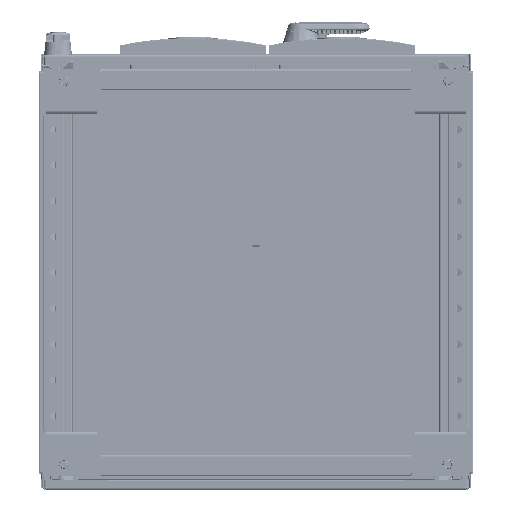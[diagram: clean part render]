
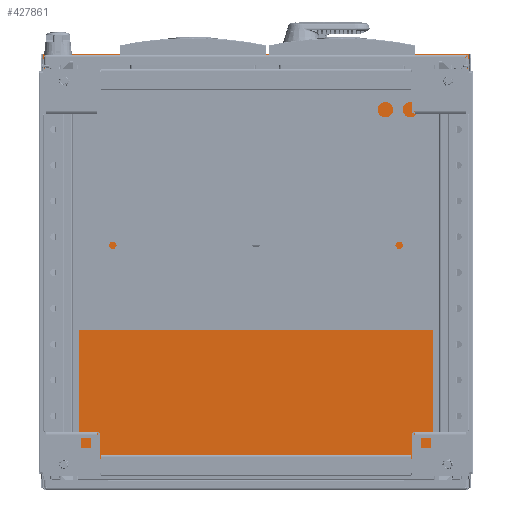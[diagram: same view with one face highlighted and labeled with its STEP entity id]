
A CAD part, front view. The second image highlights one B-rep face of the part: STEP entity #427861.
In plain terms, the highlighted planar face has unit normal (0, -1, 0).
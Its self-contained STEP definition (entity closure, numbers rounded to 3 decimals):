
#10781=FACE_BOUND('',#53837,.T.);
#10782=FACE_BOUND('',#53838,.T.);
#10783=FACE_BOUND('',#53839,.T.);
#10784=FACE_BOUND('',#53840,.T.);
#10785=FACE_BOUND('',#53841,.T.);
#10786=FACE_BOUND('',#53842,.T.);
#18499=PLANE('',#451029);
#31178=FACE_OUTER_BOUND('',#53836,.T.);
#53836=EDGE_LOOP('',(#299074,#299075,#299076,#299077,#299078,#299079));
#53837=EDGE_LOOP('',(#299080));
#53838=EDGE_LOOP('',(#299081));
#53839=EDGE_LOOP('',(#299082,#299083));
#53840=EDGE_LOOP('',(#299084,#299085));
#53841=EDGE_LOOP('',(#299086,#299087));
#53842=EDGE_LOOP('',(#299088,#299089));
#84502=LINE('',#635007,#124792);
#84514=LINE('',#635036,#124804);
#84515=LINE('',#635038,#124805);
#84516=LINE('',#635040,#124806);
#84517=LINE('',#635042,#124807);
#84518=LINE('',#635043,#124808);
#124792=VECTOR('',#497651,1000.);
#124804=VECTOR('',#497675,1000.);
#124805=VECTOR('',#497676,1000.);
#124806=VECTOR('',#497677,1000.);
#124807=VECTOR('',#497678,1000.);
#124808=VECTOR('',#497679,1000.);
#161608=CIRCLE('',#449383,2.7);
#161636=CIRCLE('',#449476,2.7);
#162001=CIRCLE('',#450996,8.);
#162002=CIRCLE('',#450997,8.);
#162003=CIRCLE('',#450999,8.);
#162004=CIRCLE('',#451000,8.);
#162005=CIRCLE('',#451002,8.);
#162006=CIRCLE('',#451003,8.);
#162007=CIRCLE('',#451005,8.);
#162008=CIRCLE('',#451006,8.);
#181194=VERTEX_POINT('',#627480);
#181295=VERTEX_POINT('',#627983);
#183503=VERTEX_POINT('',#634865);
#183504=VERTEX_POINT('',#634866);
#183505=VERTEX_POINT('',#634871);
#183506=VERTEX_POINT('',#634872);
#183507=VERTEX_POINT('',#634877);
#183508=VERTEX_POINT('',#634878);
#183509=VERTEX_POINT('',#634883);
#183510=VERTEX_POINT('',#634884);
#183557=VERTEX_POINT('',#635005);
#183558=VERTEX_POINT('',#635006);
#183569=VERTEX_POINT('',#635035);
#183570=VERTEX_POINT('',#635037);
#183571=VERTEX_POINT('',#635039);
#183572=VERTEX_POINT('',#635041);
#225205=EDGE_CURVE('',#181194,#181194,#161608,.T.);
#225361=EDGE_CURVE('',#181295,#181295,#161636,.T.);
#228699=EDGE_CURVE('',#183503,#183504,#162001,.T.);
#228701=EDGE_CURVE('',#183504,#183503,#162002,.T.);
#228702=EDGE_CURVE('',#183505,#183506,#162003,.T.);
#228704=EDGE_CURVE('',#183506,#183505,#162004,.T.);
#228705=EDGE_CURVE('',#183507,#183508,#162005,.T.);
#228707=EDGE_CURVE('',#183508,#183507,#162006,.T.);
#228708=EDGE_CURVE('',#183509,#183510,#162007,.T.);
#228710=EDGE_CURVE('',#183510,#183509,#162008,.T.);
#228767=EDGE_CURVE('',#183557,#183558,#84502,.T.);
#228781=EDGE_CURVE('',#183569,#183557,#84514,.T.);
#228782=EDGE_CURVE('',#183570,#183569,#84515,.T.);
#228783=EDGE_CURVE('',#183571,#183570,#84516,.T.);
#228784=EDGE_CURVE('',#183571,#183572,#84517,.T.);
#228785=EDGE_CURVE('',#183572,#183558,#84518,.T.);
#299074=ORIENTED_EDGE('',*,*,#228781,.F.);
#299075=ORIENTED_EDGE('',*,*,#228782,.F.);
#299076=ORIENTED_EDGE('',*,*,#228783,.F.);
#299077=ORIENTED_EDGE('',*,*,#228784,.T.);
#299078=ORIENTED_EDGE('',*,*,#228785,.T.);
#299079=ORIENTED_EDGE('',*,*,#228767,.F.);
#299080=ORIENTED_EDGE('',*,*,#225205,.T.);
#299081=ORIENTED_EDGE('',*,*,#225361,.T.);
#299082=ORIENTED_EDGE('',*,*,#228699,.F.);
#299083=ORIENTED_EDGE('',*,*,#228701,.F.);
#299084=ORIENTED_EDGE('',*,*,#228702,.F.);
#299085=ORIENTED_EDGE('',*,*,#228704,.F.);
#299086=ORIENTED_EDGE('',*,*,#228705,.F.);
#299087=ORIENTED_EDGE('',*,*,#228707,.F.);
#299088=ORIENTED_EDGE('',*,*,#228708,.F.);
#299089=ORIENTED_EDGE('',*,*,#228710,.F.);
#427861=ADVANCED_FACE('',(#31178,#10781,#10782,#10783,#10784,#10785,#10786),
#18499,.F.);
#449383=AXIS2_PLACEMENT_3D('',#627481,#491306,#491307);
#449476=AXIS2_PLACEMENT_3D('',#627984,#491572,#491573);
#450996=AXIS2_PLACEMENT_3D('',#634867,#497537,#497538);
#450997=AXIS2_PLACEMENT_3D('',#634869,#497540,#497541);
#450999=AXIS2_PLACEMENT_3D('',#634873,#497544,#497545);
#451000=AXIS2_PLACEMENT_3D('',#634875,#497547,#497548);
#451002=AXIS2_PLACEMENT_3D('',#634879,#497551,#497552);
#451003=AXIS2_PLACEMENT_3D('',#634881,#497554,#497555);
#451005=AXIS2_PLACEMENT_3D('',#634885,#497558,#497559);
#451006=AXIS2_PLACEMENT_3D('',#634887,#497561,#497562);
#451029=AXIS2_PLACEMENT_3D('',#635034,#497673,#497674);
#491306=DIRECTION('center_axis',(0.,1.,0.));
#491307=DIRECTION('ref_axis',(0.,0.,
1.));
#491572=DIRECTION('center_axis',(0.,1.,0.));
#491573=DIRECTION('ref_axis',(0.965,0.,-0.264));
#497537=DIRECTION('center_axis',(0.,-1.,0.));
#497538=DIRECTION('ref_axis',(0.,0.,1.));
#497540=DIRECTION('center_axis',(0.,-1.,0.));
#497541=DIRECTION('ref_axis',(0.,0.,1.));
#497544=DIRECTION('center_axis',(0.,-1.,0.));
#497545=DIRECTION('ref_axis',(0.,0.,1.));
#497547=DIRECTION('center_axis',(0.,-1.,0.));
#497548=DIRECTION('ref_axis',(0.,0.,1.));
#497551=DIRECTION('center_axis',(0.,-1.,0.));
#497552=DIRECTION('ref_axis',(0.,0.,1.));
#497554=DIRECTION('center_axis',(0.,-1.,0.));
#497555=DIRECTION('ref_axis',(0.,0.,1.));
#497558=DIRECTION('center_axis',(0.,-1.,0.));
#497559=DIRECTION('ref_axis',(0.,0.,1.));
#497561=DIRECTION('center_axis',(0.,-1.,0.));
#497562=DIRECTION('ref_axis',(0.,0.,1.));
#497651=DIRECTION('',(-1.,0.,0.));
#497673=DIRECTION('center_axis',(0.,1.,0.));
#497674=DIRECTION('ref_axis',(0.,0.,1.));
#497675=DIRECTION('',(-1.,0.,0.));
#497676=DIRECTION('',(0.,0.,-1.));
#497677=DIRECTION('',(1.,0.,0.));
#497678=DIRECTION('',(0.,0.,-1.));
#497679=DIRECTION('',(1.,0.,0.));
#627480=CARTESIAN_POINT('',(149.999,1169.,285.8));
#627481=CARTESIAN_POINT('Origin',(149.999,1169.,288.5));
#627983=CARTESIAN_POINT('',(-152.605,1169.,289.211));
#627984=CARTESIAN_POINT('Origin',(-150.001,1169.,288.5));
#634865=CARTESIAN_POINT('',(259.499,1169.,-267.5));
#634866=CARTESIAN_POINT('',(275.499,1169.,-267.5));
#634867=CARTESIAN_POINT('Origin',(267.499,1169.,-267.5));
#634869=CARTESIAN_POINT('Origin',(267.499,1169.,-267.5));
#634871=CARTESIAN_POINT('',(259.499,1169.,267.5));
#634872=CARTESIAN_POINT('',(275.499,1169.,267.5));
#634873=CARTESIAN_POINT('Origin',(267.499,1169.,267.5));
#634875=CARTESIAN_POINT('Origin',(267.499,1169.,267.5));
#634877=CARTESIAN_POINT('',(-275.501,1169.,267.5));
#634878=CARTESIAN_POINT('',(-259.501,1169.,267.5));
#634879=CARTESIAN_POINT('Origin',(-267.501,1169.,267.5));
#634881=CARTESIAN_POINT('Origin',(-267.501,1169.,267.5));
#634883=CARTESIAN_POINT('',(-275.501,1169.,-267.5));
#634884=CARTESIAN_POINT('',(-259.501,1169.,-267.5));
#634885=CARTESIAN_POINT('Origin',(-267.501,1169.,-267.5));
#634887=CARTESIAN_POINT('Origin',(-267.501,1169.,-267.5));
#635005=CARTESIAN_POINT('',(296.749,1169.,-300.45));
#635006=CARTESIAN_POINT('',(-297.251,1169.,-300.45));
#635007=CARTESIAN_POINT('',(297.749,1169.,-300.45));
#635034=CARTESIAN_POINT('Origin',(-297.751,1169.,304.5));
#635035=CARTESIAN_POINT('',(297.749,1169.,-300.45));
#635036=CARTESIAN_POINT('',(297.749,1169.,-300.45));
#635037=CARTESIAN_POINT('',(297.749,1169.,304.5));
#635038=CARTESIAN_POINT('',(297.749,1169.,304.5));
#635039=CARTESIAN_POINT('',(-297.751,1169.,304.5));
#635040=CARTESIAN_POINT('',(-297.751,1169.,304.5));
#635041=CARTESIAN_POINT('',(-297.751,1169.,-300.45));
#635042=CARTESIAN_POINT('',(-297.751,1169.,304.5));
#635043=CARTESIAN_POINT('',(-298.251,1169.,-300.45));
